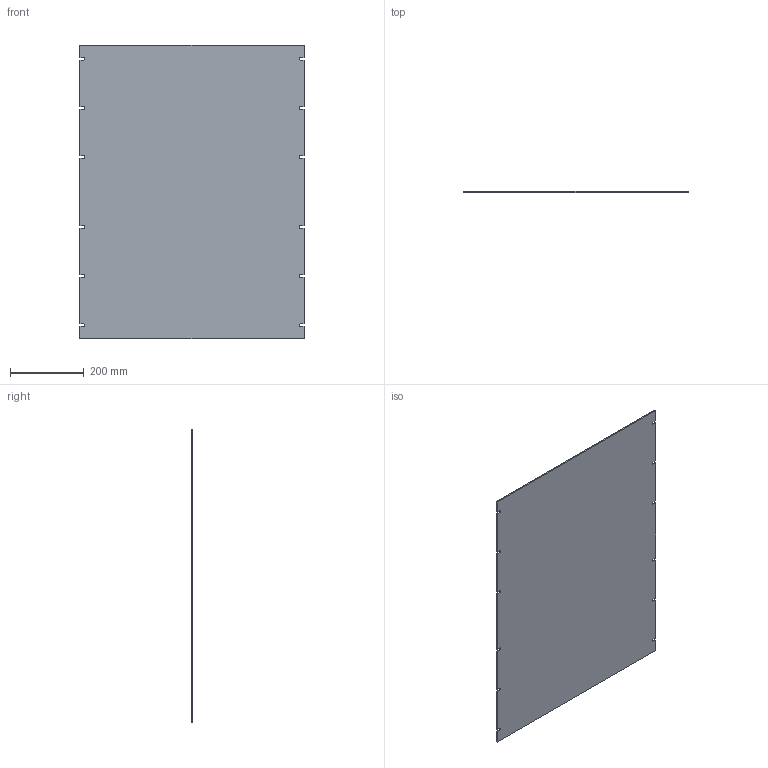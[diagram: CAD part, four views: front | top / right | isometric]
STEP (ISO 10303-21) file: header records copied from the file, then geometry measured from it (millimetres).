
FILE_DESCRIPTION( ( 'Unknown' ), '1' );
FILE_NAME( 'Q:/ACCESSORIES/PANELS/WEB DRAWINGS/STEP/PBPA24031.stp', 'Unknown', ( 'Unknown' ), ( 'Unknown' ), 'XStep 1.0', 'Unknown', ' ' );
FILE_SCHEMA( ( 'CONFIG_CONTROL_DESIGN' ) );
Length unit declared in the file: millimetre
Products named in the file (1): 1
Bounding box: 609.6 x 3.17 x 799.29 mm (x, y, z)
Volume: 1543904.6 mm3; surface area: 982409.2 mm2
Topology: 1 solids, 1 shells, 54 faces, 156 edges, 104 vertices
Faces by surface type: plane 42, cylinder 12
Entity records: 1808 total; most frequent: CARTESIAN_POINT 315, ORIENTED_EDGE 312, DIRECTION 290, EDGE_CURVE 156, LINE 132, VECTOR 132, VERTEX_POINT 104, AXIS2_PLACEMENT_3D 79
